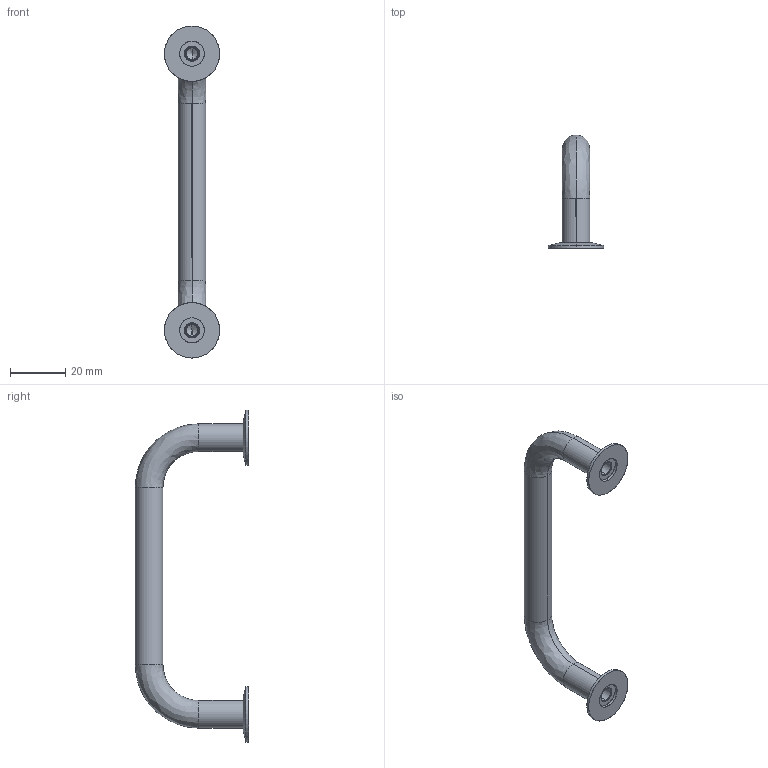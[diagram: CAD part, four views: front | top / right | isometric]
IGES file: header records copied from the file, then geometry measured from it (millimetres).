
Start section: SolidWorks IGES file using analytic representation for surfaces
Global section: file name: C:\Documents and Settings\IANO\Desktop\Temp File\Process pending\PCN pending\78700_v2\78700_v2_20170116_IGES\78700.W0509.igs; native system: SolidWorks 2009; preprocessor: SolidWorks 2009; author: IANO; date: 170310.095817; units: millimetre
Bounding box: 20 x 41 x 120 mm (x, y, z)
Surface area: 6577.4 mm2 (no closed solid volume)
Topology: 0 solids, 0 shells, 52 faces, 808 edges, 804 vertices
Faces by surface type: revolution 38, bspline 14
